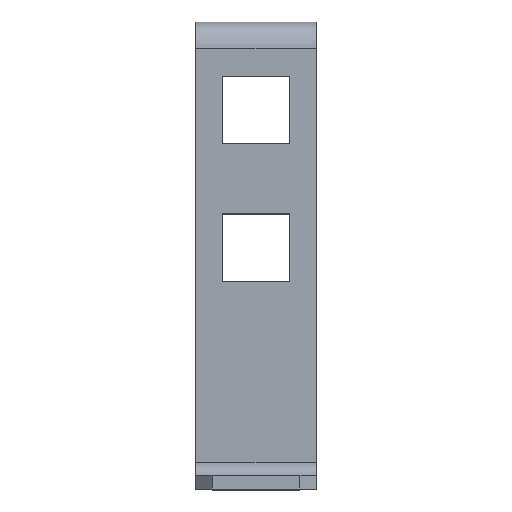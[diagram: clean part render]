
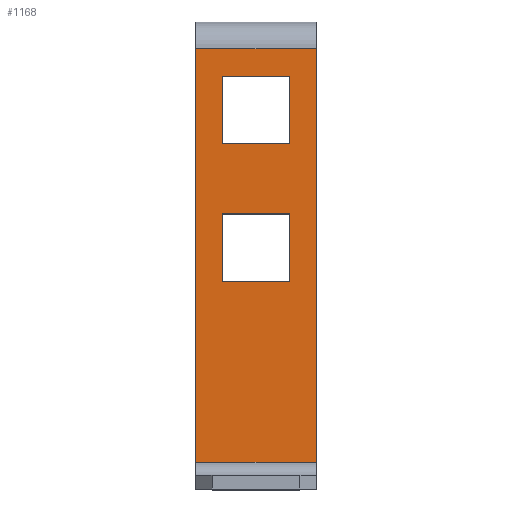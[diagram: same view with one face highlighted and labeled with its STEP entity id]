
A CAD part, top view. The second image highlights one B-rep face of the part: STEP entity #1168.
In plain terms, the highlighted planar face has unit normal (0, 0, 1).
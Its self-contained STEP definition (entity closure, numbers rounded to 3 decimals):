
#13 = CARTESIAN_POINT ( 'NONE',  ( 4.85, 75.15, 25. ) ) ;
#51 = LINE ( 'NONE', #1030, #1084 ) ;
#55 = LINE ( 'NONE', #830, #625 ) ;
#60 = DIRECTION ( 'NONE',  ( 0., -1., 0. ) ) ;
#61 = VERTEX_POINT ( 'NONE', #1100 ) ;
#83 = EDGE_CURVE ( 'NONE', #673, #271, #55, .T. ) ;
#136 = CARTESIAN_POINT ( 'NONE',  ( 4.85, 62.85, 25. ) ) ;
#144 = EDGE_CURVE ( 'NONE', #1625, #613, #1045, .T. ) ;
#153 = DIRECTION ( 'NONE',  ( -1., 0., 0. ) ) ;
#171 = CARTESIAN_POINT ( 'NONE',  ( 4.85, 62.85, 25. ) ) ;
#176 = ORIENTED_EDGE ( 'NONE', *, *, #1058, .T. ) ;
#182 = DIRECTION ( 'NONE',  ( 0., -1., 0. ) ) ;
#214 = VECTOR ( 'NONE', #1536, 1000. ) ;
#216 = EDGE_CURVE ( 'NONE', #613, #1348, #642, .T. ) ;
#228 = DIRECTION ( 'NONE',  ( -1., 0., 0. ) ) ;
#245 = EDGE_LOOP ( 'NONE', ( #176, #627, #1681, #1394 ) ) ;
#271 = VERTEX_POINT ( 'NONE', #609 ) ;
#305 = VECTOR ( 'NONE', #1781, 1000. ) ;
#380 = EDGE_CURVE ( 'NONE', #1889, #1660, #1003, .T. ) ;
#381 = VERTEX_POINT ( 'NONE', #927 ) ;
#393 = DIRECTION ( 'NONE',  ( 0., 1., 0. ) ) ;
#397 = CARTESIAN_POINT ( 'NONE',  ( 22., 4.9, 25. ) ) ;
#430 = CARTESIAN_POINT ( 'NONE',  ( 17.15, 50.15, 25. ) ) ;
#492 = ORIENTED_EDGE ( 'NONE', *, *, #144, .F. ) ;
#501 = VERTEX_POINT ( 'NONE', #1690 ) ;
#521 = VERTEX_POINT ( 'NONE', #397 ) ;
#533 = LINE ( 'NONE', #737, #1038 ) ;
#538 = CARTESIAN_POINT ( 'NONE',  ( 22., 4.9, 25. ) ) ;
#566 = EDGE_CURVE ( 'NONE', #271, #1889, #1475, .T. ) ;
#574 = CARTESIAN_POINT ( 'NONE',  ( 4.85, 75.15, 25. ) ) ;
#596 = CARTESIAN_POINT ( 'NONE',  ( 17.15, 50.15, 25. ) ) ;
#605 = ORIENTED_EDGE ( 'NONE', *, *, #566, .F. ) ;
#609 = CARTESIAN_POINT ( 'NONE',  ( 4.85, 50.15, 25. ) ) ;
#613 = VERTEX_POINT ( 'NONE', #574 ) ;
#625 = VECTOR ( 'NONE', #228, 1000. ) ;
#627 = ORIENTED_EDGE ( 'NONE', *, *, #1752, .F. ) ;
#639 = VECTOR ( 'NONE', #931, 1000. ) ;
#642 = LINE ( 'NONE', #13, #1322 ) ;
#673 = VERTEX_POINT ( 'NONE', #430 ) ;
#697 = EDGE_CURVE ( 'NONE', #1660, #673, #1001, .T. ) ;
#724 = ORIENTED_EDGE ( 'NONE', *, *, #380, .F. ) ;
#737 = CARTESIAN_POINT ( 'NONE',  ( 22., 82.5, 25. ) ) ;
#754 = CARTESIAN_POINT ( 'NONE',  ( 17.15, 75.15, 25. ) ) ;
#779 = LINE ( 'NONE', #136, #1450 ) ;
#819 = ORIENTED_EDGE ( 'NONE', *, *, #83, .F. ) ;
#823 = ORIENTED_EDGE ( 'NONE', *, *, #697, .F. ) ;
#830 = CARTESIAN_POINT ( 'NONE',  ( 4.85, 50.15, 25. ) ) ;
#833 = DIRECTION ( 'NONE',  ( -1., 0., 0. ) ) ;
#836 = EDGE_CURVE ( 'NONE', #501, #1625, #930, .T. ) ;
#842 = VERTEX_POINT ( 'NONE', #1062 ) ;
#863 = CARTESIAN_POINT ( 'NONE',  ( 4.85, 37.85, 25. ) ) ;
#866 = VECTOR ( 'NONE', #1065, 1000. ) ;
#903 = DIRECTION ( 'NONE',  ( 0., -1., 0. ) ) ;
#908 = VECTOR ( 'NONE', #833, 1000. ) ;
#927 = CARTESIAN_POINT ( 'NONE',  ( 0., 4.9, 25. ) ) ;
#930 = LINE ( 'NONE', #754, #639 ) ;
#931 = DIRECTION ( 'NONE',  ( 0., 1., 0. ) ) ;
#955 = VECTOR ( 'NONE', #1438, 1000. ) ;
#959 = EDGE_LOOP ( 'NONE', ( #1366, #1725, #492, #1795 ) ) ;
#984 = CARTESIAN_POINT ( 'NONE',  ( 22., 82.5, 25. ) ) ;
#998 = CARTESIAN_POINT ( 'NONE',  ( 4.85, 50.15, 25. ) ) ;
#1001 = LINE ( 'NONE', #596, #305 ) ;
#1003 = LINE ( 'NONE', #1385, #214 ) ;
#1029 = EDGE_LOOP ( 'NONE', ( #605, #819, #823, #724 ) ) ;
#1030 = CARTESIAN_POINT ( 'NONE',  ( 22., 80.1, 25. ) ) ;
#1038 = VECTOR ( 'NONE', #903, 1000. ) ;
#1045 = LINE ( 'NONE', #1478, #866 ) ;
#1058 = EDGE_CURVE ( 'NONE', #61, #381, #1085, .T. ) ;
#1062 = CARTESIAN_POINT ( 'NONE',  ( 22., 80.1, 25. ) ) ;
#1065 = DIRECTION ( 'NONE',  ( -1., 0., 0. ) ) ;
#1084 = VECTOR ( 'NONE', #153, 1000. ) ;
#1085 = LINE ( 'NONE', #1823, #1379 ) ;
#1100 = CARTESIAN_POINT ( 'NONE',  ( 0., 80.1, 25. ) ) ;
#1128 = DIRECTION ( 'NONE',  ( 0., 0., -1. ) ) ;
#1168 = ADVANCED_FACE ( 'NONE', ( #1592, #1566, #1223 ), #1277, .F. ) ;
#1169 = DIRECTION ( 'NONE',  ( 1., 0., 0. ) ) ;
#1223 = FACE_OUTER_BOUND ( 'NONE', #245, .T. ) ;
#1277 = PLANE ( 'NONE',  #1827 ) ;
#1309 = EDGE_CURVE ( 'NONE', #1348, #501, #779, .T. ) ;
#1322 = VECTOR ( 'NONE', #182, 1000. ) ;
#1348 = VERTEX_POINT ( 'NONE', #171 ) ;
#1366 = ORIENTED_EDGE ( 'NONE', *, *, #1309, .F. ) ;
#1377 = CARTESIAN_POINT ( 'NONE',  ( 17.15, 37.85, 25. ) ) ;
#1379 = VECTOR ( 'NONE', #60, 1000. ) ;
#1383 = EDGE_CURVE ( 'NONE', #842, #61, #51, .T. ) ;
#1385 = CARTESIAN_POINT ( 'NONE',  ( 4.85, 37.85, 25. ) ) ;
#1394 = ORIENTED_EDGE ( 'NONE', *, *, #1383, .T. ) ;
#1422 = EDGE_CURVE ( 'NONE', #842, #521, #533, .T. ) ;
#1438 = DIRECTION ( 'NONE',  ( 0., -1., 0. ) ) ;
#1450 = VECTOR ( 'NONE', #1169, 1000. ) ;
#1475 = LINE ( 'NONE', #998, #955 ) ;
#1478 = CARTESIAN_POINT ( 'NONE',  ( 4.85, 75.15, 25. ) ) ;
#1536 = DIRECTION ( 'NONE',  ( 1., 0., 0. ) ) ;
#1566 = FACE_BOUND ( 'NONE', #1029, .T. ) ;
#1592 = FACE_BOUND ( 'NONE', #959, .T. ) ;
#1625 = VERTEX_POINT ( 'NONE', #1699 ) ;
#1660 = VERTEX_POINT ( 'NONE', #1377 ) ;
#1681 = ORIENTED_EDGE ( 'NONE', *, *, #1422, .F. ) ;
#1690 = CARTESIAN_POINT ( 'NONE',  ( 17.15, 62.85, 25. ) ) ;
#1699 = CARTESIAN_POINT ( 'NONE',  ( 17.15, 75.15, 25. ) ) ;
#1710 = LINE ( 'NONE', #538, #908 ) ;
#1725 = ORIENTED_EDGE ( 'NONE', *, *, #216, .F. ) ;
#1752 = EDGE_CURVE ( 'NONE', #521, #381, #1710, .T. ) ;
#1781 = DIRECTION ( 'NONE',  ( 0., 1., 0. ) ) ;
#1795 = ORIENTED_EDGE ( 'NONE', *, *, #836, .F. ) ;
#1823 = CARTESIAN_POINT ( 'NONE',  ( 0., 82.5, 25. ) ) ;
#1827 = AXIS2_PLACEMENT_3D ( 'NONE', #984, #1128, #393 ) ;
#1889 = VERTEX_POINT ( 'NONE', #863 ) ;
